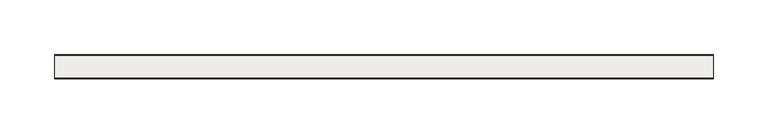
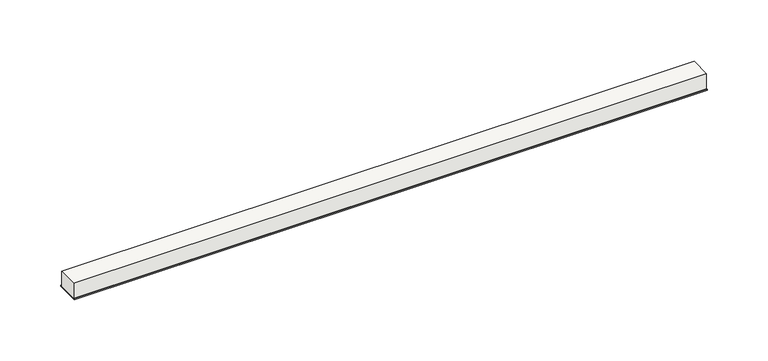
"""IFC4 building model written with IfcOpenShell, lengths in millimetres: covering geometry, SikaSwell® A System : SikaSwell® A System (2015)."""

from ifc_helpers import new_model, si_unit, frame, origin, origin_with_axes, place, context, project, spatial, polyline, outline, extrude, source, transform, mapped, element, save


def covering_23746d61(model_context):
    return source(origin(), model_context, "Body", "SweptSolid", [
        extrude(outline(polyline([(600.0, 0.0), (600.0, -20.0), (0.0, -20.0), (0.0, 0.0), (600.0, 0.0)])), frame((0.0, 0.0, 1.0), z_axis=(0.0, 0.0, 1.0), x_axis=(1.0, 0.0, 0.0)), (0.0, 0.0, 1.0), 15.0),
        extrude(outline(polyline([(600.0, 1.0), (600.0, -21.0), (0.0, -21.0), (0.0, 1.0), (600.0, 1.0)])), origin_with_axes(), (0.0, 0.0, 1.0), 1.0),
    ])


if __name__ == "__main__":
    model = new_model("IFC4")
    model_context = context("Model", 3, world=origin())
    ifc_project = project(units=[si_unit("LENGTHUNIT", "METRE", prefix="MILLI")], contexts=[model_context])
    site = spatial("IfcSite", under=ifc_project)
    building = spatial("IfcBuilding", under=site)
    placement = place(None, origin())
    covering_shape = covering_23746d61(model_context)
    element("IfcCovering", 1, ObjectType="SikaSwell® A System : SikaSwell® A System (2015)", at=placement, inside=building, context=model_context, shape_type="MappedRepresentation", body=[
        mapped(covering_shape, transform((0.0, 0.0, 0.0), x_axis=(1.0, 0.0, 0.0), y_axis=(0.0, 1.0, 0.0), z_axis=(0.0, 0.0, 1.0))),
    ])
    save(model, "model.ifc")
